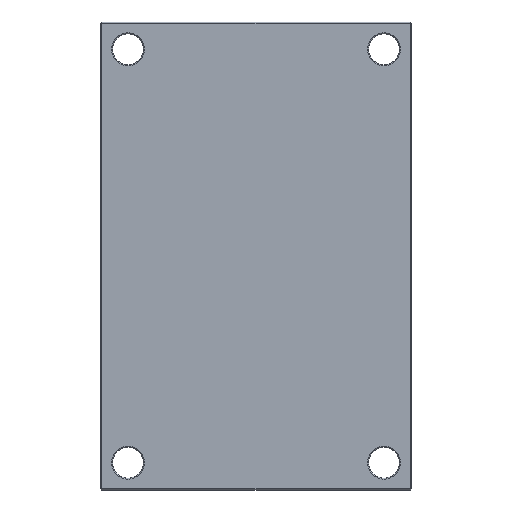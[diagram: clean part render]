
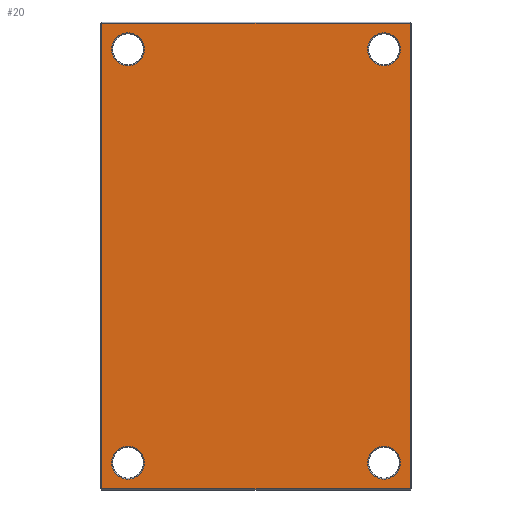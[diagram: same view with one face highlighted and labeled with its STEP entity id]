
A CAD part, front view. The second image highlights one B-rep face of the part: STEP entity #20.
In plain terms, the highlighted planar face has unit normal (0, -1, 0).
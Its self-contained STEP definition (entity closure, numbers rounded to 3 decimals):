
#7 = EDGE_CURVE ( 'NONE', #2041, #1643, #1063, .T. ) ;
#20 = ADVANCED_FACE ( 'NONE', ( #1085, #849, #1011, #781, #694 ), #1107, .F. ) ;
#51 = EDGE_CURVE ( 'NONE', #1466, #1477, #1642, .T. ) ;
#106 = VERTEX_POINT ( 'NONE', #2022 ) ;
#114 = CIRCLE ( 'NONE', #2020, 15.7 ) ;
#139 = VECTOR ( 'NONE', #1370, 1000. ) ;
#161 = EDGE_CURVE ( 'NONE', #1882, #1880, #794, .T. ) ;
#167 = LINE ( 'NONE', #551, #1844 ) ;
#198 = LINE ( 'NONE', #1439, #139 ) ;
#312 = EDGE_CURVE ( 'NONE', #960, #106, #1043, .T. ) ;
#313 = CARTESIAN_POINT ( 'NONE',  ( -122., 0., 181.3 ) ) ;
#445 = EDGE_CURVE ( 'NONE', #1279, #846, #1519, .T. ) ;
#447 = EDGE_CURVE ( 'NONE', #846, #1725, #198, .T. ) ;
#498 = EDGE_CURVE ( 'NONE', #1415, #1279, #1068, .T. ) ;
#501 = EDGE_CURVE ( 'NONE', #1725, #1415, #167, .T. ) ;
#505 = EDGE_CURVE ( 'NONE', #106, #960, #114, .T. ) ;
#506 = EDGE_CURVE ( 'NONE', #1477, #1466, #1382, .T. ) ;
#512 = EDGE_CURVE ( 'NONE', #1643, #2041, #1016, .T. ) ;
#513 = EDGE_CURVE ( 'NONE', #1880, #1882, #1887, .T. ) ;
#551 = CARTESIAN_POINT ( 'NONE',  ( 147., 0., 0. ) ) ;
#654 = CARTESIAN_POINT ( 'NONE',  ( 147., 0., 222. ) ) ;
#669 = DIRECTION ( 'NONE',  ( 0., 1., 0. ) ) ;
#679 = DIRECTION ( 'NONE',  ( 0., 0., 1. ) ) ;
#693 = CARTESIAN_POINT ( 'NONE',  ( -147., 0., 222. ) ) ;
#694 = FACE_OUTER_BOUND ( 'NONE', #882, .T. ) ;
#711 = EDGE_LOOP ( 'NONE', ( #1119, #1118 ) ) ;
#717 = DIRECTION ( 'NONE',  ( 0., 1., 0. ) ) ;
#724 = DIRECTION ( 'NONE',  ( 0., 0., 1. ) ) ;
#752 = VECTOR ( 'NONE', #906, 1000. ) ;
#769 = DIRECTION ( 'NONE',  ( 0., 0., 1. ) ) ;
#781 = FACE_BOUND ( 'NONE', #2114, .T. ) ;
#794 = CIRCLE ( 'NONE', #1452, 15.7 ) ;
#815 = CARTESIAN_POINT ( 'NONE',  ( -122., 0., 197. ) ) ;
#846 = VERTEX_POINT ( 'NONE', #1927 ) ;
#849 = FACE_BOUND ( 'NONE', #1007, .T. ) ;
#850 = DIRECTION ( 'NONE',  ( 0., 1., 0. ) ) ;
#873 = DIRECTION ( 'NONE',  ( 0., 1., 0. ) ) ;
#881 = AXIS2_PLACEMENT_3D ( 'NONE', #1640, #873, #1235 ) ;
#882 = EDGE_LOOP ( 'NONE', ( #1247, #1160, #1185, #1163 ) ) ;
#892 = CARTESIAN_POINT ( 'NONE',  ( -122., 0., 197. ) ) ;
#901 = DIRECTION ( 'NONE',  ( 0., 1., 0. ) ) ;
#903 = DIRECTION ( 'NONE',  ( 0., 0., 1. ) ) ;
#906 = DIRECTION ( 'NONE',  ( -1., 0., 0. ) ) ;
#926 = CARTESIAN_POINT ( 'NONE',  ( 122., 0., 197. ) ) ;
#940 = DIRECTION ( 'NONE',  ( 0., 0., 1. ) ) ;
#960 = VERTEX_POINT ( 'NONE', #313 ) ;
#969 = CARTESIAN_POINT ( 'NONE',  ( 122., 0., -197. ) ) ;
#982 = CARTESIAN_POINT ( 'NONE',  ( 122., 0., 212.7 ) ) ;
#989 = CARTESIAN_POINT ( 'NONE',  ( 122., 0., 181.3 ) ) ;
#990 = DIRECTION ( 'NONE',  ( 0., 1., 0. ) ) ;
#995 = DIRECTION ( 'NONE',  ( 0., 0., 1. ) ) ;
#1007 = EDGE_LOOP ( 'NONE', ( #1079, #1098 ) ) ;
#1011 = FACE_BOUND ( 'NONE', #711, .T. ) ;
#1012 = CARTESIAN_POINT ( 'NONE',  ( 147., 0., -222. ) ) ;
#1016 = CIRCLE ( 'NONE', #2032, 15.7 ) ;
#1022 = DIRECTION ( 'NONE',  ( 0., 0., 1. ) ) ;
#1043 = CIRCLE ( 'NONE', #1727, 15.7 ) ;
#1053 = ORIENTED_EDGE ( 'NONE', *, *, #161, .T. ) ;
#1063 = CIRCLE ( 'NONE', #881, 15.7 ) ;
#1068 = LINE ( 'NONE', #1726, #752 ) ;
#1079 = ORIENTED_EDGE ( 'NONE', *, *, #7, .T. ) ;
#1085 = FACE_BOUND ( 'NONE', #1546, .T. ) ;
#1087 = CARTESIAN_POINT ( 'NONE',  ( -122., 0., -197. ) ) ;
#1089 = VECTOR ( 'NONE', #1454, 1000. ) ;
#1091 = DIRECTION ( 'NONE',  ( 0., 1., 0. ) ) ;
#1096 = ORIENTED_EDGE ( 'NONE', *, *, #513, .T. ) ;
#1098 = ORIENTED_EDGE ( 'NONE', *, *, #512, .T. ) ;
#1107 = PLANE ( 'NONE',  #1125 ) ;
#1118 = ORIENTED_EDGE ( 'NONE', *, *, #506, .T. ) ;
#1119 = ORIENTED_EDGE ( 'NONE', *, *, #51, .T. ) ;
#1121 = DIRECTION ( 'NONE',  ( 0., 0., 1. ) ) ;
#1125 = AXIS2_PLACEMENT_3D ( 'NONE', #1169, #1790, #1022 ) ;
#1143 = ORIENTED_EDGE ( 'NONE', *, *, #312, .T. ) ;
#1160 = ORIENTED_EDGE ( 'NONE', *, *, #498, .T. ) ;
#1163 = ORIENTED_EDGE ( 'NONE', *, *, #447, .T. ) ;
#1167 = CARTESIAN_POINT ( 'NONE',  ( 122., 0., -181.3 ) ) ;
#1169 = CARTESIAN_POINT ( 'NONE',  ( 0., 0., 0. ) ) ;
#1185 = ORIENTED_EDGE ( 'NONE', *, *, #445, .T. ) ;
#1213 = DIRECTION ( 'NONE',  ( 0., 0., 1. ) ) ;
#1230 = ORIENTED_EDGE ( 'NONE', *, *, #505, .T. ) ;
#1235 = DIRECTION ( 'NONE',  ( 0., 0., 1. ) ) ;
#1247 = ORIENTED_EDGE ( 'NONE', *, *, #501, .T. ) ;
#1279 = VERTEX_POINT ( 'NONE', #693 ) ;
#1351 = AXIS2_PLACEMENT_3D ( 'NONE', #1703, #1753, #1213 ) ;
#1370 = DIRECTION ( 'NONE',  ( 1., 0., 0. ) ) ;
#1382 = CIRCLE ( 'NONE', #2021, 15.7 ) ;
#1387 = CARTESIAN_POINT ( 'NONE',  ( -147., 0., 0. ) ) ;
#1415 = VERTEX_POINT ( 'NONE', #654 ) ;
#1439 = CARTESIAN_POINT ( 'NONE',  ( 0., 0., -222. ) ) ;
#1452 = AXIS2_PLACEMENT_3D ( 'NONE', #1877, #669, #679 ) ;
#1454 = DIRECTION ( 'NONE',  ( 0., 0., -1. ) ) ;
#1466 = VERTEX_POINT ( 'NONE', #989 ) ;
#1477 = VERTEX_POINT ( 'NONE', #982 ) ;
#1503 = CARTESIAN_POINT ( 'NONE',  ( -122., 0., -181.3 ) ) ;
#1519 = LINE ( 'NONE', #1387, #1089 ) ;
#1546 = EDGE_LOOP ( 'NONE', ( #1053, #1096 ) ) ;
#1640 = CARTESIAN_POINT ( 'NONE',  ( 122., 0., -197. ) ) ;
#1642 = CIRCLE ( 'NONE', #1351, 15.7 ) ;
#1643 = VERTEX_POINT ( 'NONE', #1167 ) ;
#1703 = CARTESIAN_POINT ( 'NONE',  ( 122., 0., 197. ) ) ;
#1725 = VERTEX_POINT ( 'NONE', #1012 ) ;
#1726 = CARTESIAN_POINT ( 'NONE',  ( 0., 0., 222. ) ) ;
#1727 = AXIS2_PLACEMENT_3D ( 'NONE', #892, #901, #903 ) ;
#1753 = DIRECTION ( 'NONE',  ( 0., 1., 0. ) ) ;
#1790 = DIRECTION ( 'NONE',  ( 0., 1., 0. ) ) ;
#1812 = CARTESIAN_POINT ( 'NONE',  ( -122., 0., -212.7 ) ) ;
#1844 = VECTOR ( 'NONE', #724, 1000. ) ;
#1877 = CARTESIAN_POINT ( 'NONE',  ( -122., 0., -197. ) ) ;
#1880 = VERTEX_POINT ( 'NONE', #1503 ) ;
#1882 = VERTEX_POINT ( 'NONE', #1812 ) ;
#1887 = CIRCLE ( 'NONE', #2033, 15.7 ) ;
#1927 = CARTESIAN_POINT ( 'NONE',  ( -147., 0., -222. ) ) ;
#2020 = AXIS2_PLACEMENT_3D ( 'NONE', #815, #717, #769 ) ;
#2021 = AXIS2_PLACEMENT_3D ( 'NONE', #926, #850, #940 ) ;
#2022 = CARTESIAN_POINT ( 'NONE',  ( -122., 0., 212.7 ) ) ;
#2032 = AXIS2_PLACEMENT_3D ( 'NONE', #969, #990, #995 ) ;
#2033 = AXIS2_PLACEMENT_3D ( 'NONE', #1087, #1091, #1121 ) ;
#2041 = VERTEX_POINT ( 'NONE', #2076 ) ;
#2076 = CARTESIAN_POINT ( 'NONE',  ( 122., 0., -212.7 ) ) ;
#2114 = EDGE_LOOP ( 'NONE', ( #1143, #1230 ) ) ;
